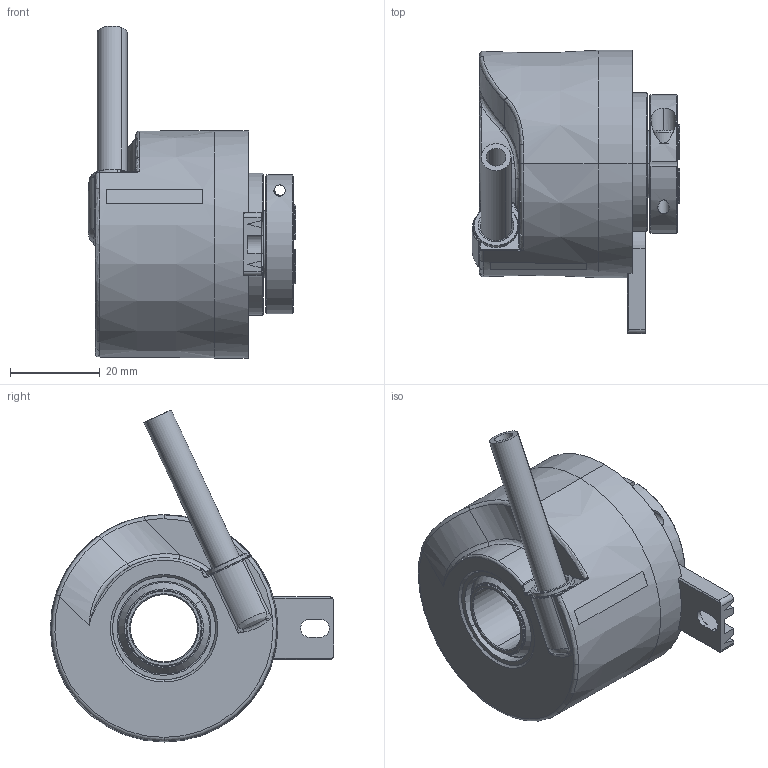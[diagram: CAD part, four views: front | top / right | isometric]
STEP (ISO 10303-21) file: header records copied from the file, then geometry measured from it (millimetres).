
FILE_DESCRIPTION (( 'STEP AP214' ), '1' );
FILE_NAME ('5020.28XE.XXXX.STEP', '2011-01-05T10:23:04', ( 'admin' ), ( 'Fritz Kübler GmbH' ), 'SwSTEP 2.0', 'SolidWorks 2009', '' );
FILE_SCHEMA (( 'AUTOMOTIVE_DESIGN' ));
Length unit declared in the file: millimetre
Products named in the file (1): 5020.28XE.XXXX
Bounding box: 46.3 x 63.3 x 74.14 mm (x, y, z)
Surface area: 18792.3 mm2 (no closed solid volume)
Topology: 0 solids, 11 shells, 201 faces, 603 edges, 397 vertices
Faces by surface type: cylinder 73, plane 61, cone 28, bspline 20, torus 19
Entity records: 11658 total; most frequent: CARTESIAN_POINT 4104, DIRECTION 1137, ORIENTED_EDGE 1031, EDGE_CURVE 596, AXIS2_PLACEMENT_3D 443, VERTEX_POINT 397, CIRCLE 261, VECTOR 251
